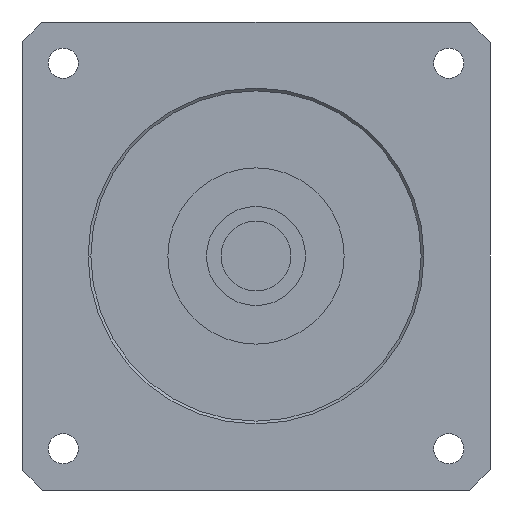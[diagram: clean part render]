
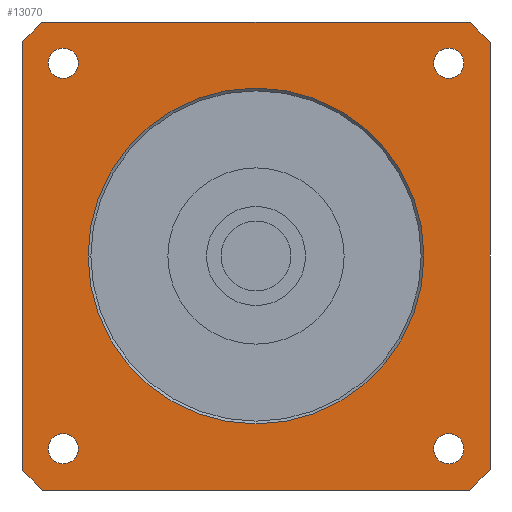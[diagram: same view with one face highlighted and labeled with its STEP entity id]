
A CAD part, left-side view. The second image highlights one B-rep face of the part: STEP entity #13070.
In plain terms, the highlighted planar face has unit normal (-1, 0, 0) as drawn and (0, 0, -1) by its records, which use the part's own axes.
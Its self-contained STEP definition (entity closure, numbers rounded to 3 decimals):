
#8640=CARTESIAN_POINT('',(32.252,35.002,-36.));
#8650=VERTEX_POINT('',#8640);
#8830=CARTESIAN_POINT('',(37.752,35.002,-36.));
#8840=VERTEX_POINT('',#8830);
#8870=CARTESIAN_POINT('',(35.002,35.002,-36.));
#8880=DIRECTION('',(0.,0.,-1.));
#8890=DIRECTION('',(1.,0.,0.));
#8900=AXIS2_PLACEMENT_3D('',#8870,#8880,#8890);
#8910=CIRCLE('',#8900,2.75);
#8920=EDGE_CURVE('',#8650,#8840,#8910,.T.);
#9060=CARTESIAN_POINT('',(-37.752,35.002,-36.));
#9070=VERTEX_POINT('',#9060);
#9250=CARTESIAN_POINT('',(-32.252,35.002,-36.));
#9260=VERTEX_POINT('',#9250);
#9290=CARTESIAN_POINT('',(-35.002,35.002,-36.));
#9300=DIRECTION('',(0.,0.,-1.));
#9310=DIRECTION('',(1.,0.,0.));
#9320=AXIS2_PLACEMENT_3D('',#9290,#9300,#9310);
#9330=CIRCLE('',#9320,2.75);
#9340=EDGE_CURVE('',#9070,#9260,#9330,.T.);
#11640=CARTESIAN_POINT('',(30.5,0.,-36.));
#11650=VERTEX_POINT('',#11640);
#11680=CARTESIAN_POINT('',(0.,0.,
-36.));
#11690=DIRECTION('',(0.,0.,1.));
#11700=DIRECTION('',(-1.,0.,0.));
#11710=AXIS2_PLACEMENT_3D('',#11680,#11690,#11700);
#11720=CIRCLE('',#11710,30.5);
#11730=CARTESIAN_POINT('',(-30.5,0.,-36.));
#11740=VERTEX_POINT('',#11730);
#11750=EDGE_CURVE('',#11650,#11740,#11720,.T.);
#11870=CARTESIAN_POINT('',(42.5,42.5,-36.));
#11880=DIRECTION('',(0.,0.,1.));
#11890=DIRECTION('',(-1.,0.,0.));
#11900=AXIS2_PLACEMENT_3D('',#11870,#11880,#11890);
#11910=PLANE('',#11900);
#11920=EDGE_CURVE('',#11740,#11650,#11720,.T.);
#11930=ORIENTED_EDGE('',*,*,#11920,.T.);
#11940=ORIENTED_EDGE('',*,*,#11750,.T.);
#11950=EDGE_LOOP('',(#11940,#11930));
#11960=FACE_BOUND('',#11950,.T.);
#11970=CARTESIAN_POINT('',(-35.002,-35.002,-36.));
#11980=DIRECTION('',(0.,0.,-1.));
#11990=DIRECTION('',(1.,0.,0.));
#12000=AXIS2_PLACEMENT_3D('',#11970,#11980,#11990);
#12010=CIRCLE('',#12000,2.75);
#12020=CARTESIAN_POINT('',(-32.252,-35.002,-36.));
#12030=VERTEX_POINT('',#12020);
#12040=CARTESIAN_POINT('',(-37.752,-35.002,-36.));
#12050=VERTEX_POINT('',#12040);
#12060=EDGE_CURVE('',#12030,#12050,#12010,.T.);
#12070=ORIENTED_EDGE('',*,*,#12060,.F.);
#12080=EDGE_CURVE('',#12050,#12030,#12010,.T.);
#12090=ORIENTED_EDGE('',*,*,#12080,.F.);
#12100=EDGE_LOOP('',(#12090,#12070));
#12110=FACE_BOUND('',#12100,.T.);
#12120=CARTESIAN_POINT('',(35.002,-35.002,-36.));
#12130=DIRECTION('',(0.,0.,-1.));
#12140=DIRECTION('',(1.,0.,0.));
#12150=AXIS2_PLACEMENT_3D('',#12120,#12130,#12140);
#12160=CIRCLE('',#12150,2.75);
#12170=CARTESIAN_POINT('',(37.752,-35.002,-36.));
#12180=VERTEX_POINT('',#12170);
#12190=CARTESIAN_POINT('',(32.252,-35.002,-36.));
#12200=VERTEX_POINT('',#12190);
#12210=EDGE_CURVE('',#12180,#12200,#12160,.T.);
#12220=ORIENTED_EDGE('',*,*,#12210,.F.);
#12230=EDGE_CURVE('',#12200,#12180,#12160,.T.);
#12240=ORIENTED_EDGE('',*,*,#12230,.F.);
#12250=EDGE_LOOP('',(#12240,#12220));
#12260=FACE_BOUND('',#12250,.T.);
#12270=EDGE_CURVE('',#8840,#8650,#8910,.T.);
#12280=ORIENTED_EDGE('',*,*,#12270,.F.);
#12290=ORIENTED_EDGE('',*,*,#8920,.F.);
#12300=EDGE_LOOP('',(#12290,#12280));
#12310=FACE_BOUND('',#12300,.T.);
#12320=EDGE_CURVE('',#9260,#9070,#9330,.T.);
#12330=ORIENTED_EDGE('',*,*,#12320,.F.);
#12340=ORIENTED_EDGE('',*,*,#9340,.F.);
#12350=EDGE_LOOP('',(#12340,#12330));
#12360=FACE_BOUND('',#12350,.T.);
#12370=CARTESIAN_POINT('',(0.,0.,
-36.));
#12380=DIRECTION('',(0.,0.,1.));
#12390=DIRECTION('',(1.,0.,0.));
#12400=AXIS2_PLACEMENT_3D('',#12370,#12380,#12390);
#12410=CIRCLE('',#12400,57.5);
#12420=CARTESIAN_POINT('',(-42.5,-38.73,-36.));
#12430=VERTEX_POINT('',#12420);
#12440=CARTESIAN_POINT('',(-38.73,-42.5,-36.));
#12450=VERTEX_POINT('',#12440);
#12460=EDGE_CURVE('',#12430,#12450,#12410,.T.);
#12470=ORIENTED_EDGE('',*,*,#12460,.F.);
#12480=CARTESIAN_POINT('',(-42.5,-42.5,-36.));
#12490=DIRECTION('',(1.,0.,0.));
#12500=VECTOR('',#12490,1000.);
#12510=LINE('',#12480,#12500);
#12520=CARTESIAN_POINT('',(38.73,-42.5,-36.));
#12530=VERTEX_POINT('',#12520);
#12540=EDGE_CURVE('',#12450,#12530,#12510,.T.);
#12550=ORIENTED_EDGE('',*,*,#12540,.F.);
#12560=CARTESIAN_POINT('',(0.,0.,
-36.));
#12570=DIRECTION('',(0.,0.,1.));
#12580=DIRECTION('',(1.,0.,0.));
#12590=AXIS2_PLACEMENT_3D('',#12560,#12570,#12580);
#12600=CIRCLE('',#12590,57.5);
#12610=CARTESIAN_POINT('',(42.5,-38.73,-36.));
#12620=VERTEX_POINT('',#12610);
#12630=EDGE_CURVE('',#12530,#12620,#12600,.T.);
#12640=ORIENTED_EDGE('',*,*,#12630,.F.);
#12650=CARTESIAN_POINT('',(42.5,-42.5,-36.));
#12660=DIRECTION('',(0.,1.,0.));
#12670=VECTOR('',#12660,1000.);
#12680=LINE('',#12650,#12670);
#12690=CARTESIAN_POINT('',(42.5,38.73,-36.));
#12700=VERTEX_POINT('',#12690);
#12710=EDGE_CURVE('',#12620,#12700,#12680,.T.);
#12720=ORIENTED_EDGE('',*,*,#12710,.F.);
#12730=CARTESIAN_POINT('',(0.,0.,
-36.));
#12740=DIRECTION('',(0.,0.,1.));
#12750=DIRECTION('',(1.,0.,0.));
#12760=AXIS2_PLACEMENT_3D('',#12730,#12740,#12750);
#12770=CIRCLE('',#12760,57.5);
#12780=CARTESIAN_POINT('',(38.73,42.5,-36.));
#12790=VERTEX_POINT('',#12780);
#12800=EDGE_CURVE('',#12700,#12790,#12770,.T.);
#12810=ORIENTED_EDGE('',*,*,#12800,.F.);
#12820=CARTESIAN_POINT('',(42.5,42.5,-36.));
#12830=DIRECTION('',(-1.,0.,0.));
#12840=VECTOR('',#12830,1000.);
#12850=LINE('',#12820,#12840);
#12860=CARTESIAN_POINT('',(-38.73,42.5,-36.));
#12870=VERTEX_POINT('',#12860);
#12880=EDGE_CURVE('',#12790,#12870,#12850,.T.);
#12890=ORIENTED_EDGE('',*,*,#12880,.F.);
#12900=CARTESIAN_POINT('',(0.,0.,
-36.));
#12910=DIRECTION('',(0.,0.,1.));
#12920=DIRECTION('',(1.,0.,0.));
#12930=AXIS2_PLACEMENT_3D('',#12900,#12910,#12920);
#12940=CIRCLE('',#12930,57.5);
#12950=CARTESIAN_POINT('',(-42.5,38.73,-36.));
#12960=VERTEX_POINT('',#12950);
#12970=EDGE_CURVE('',#12870,#12960,#12940,.T.);
#12980=ORIENTED_EDGE('',*,*,#12970,.F.);
#12990=CARTESIAN_POINT('',(-42.5,42.5,-36.));
#13000=DIRECTION('',(0.,-1.,0.));
#13010=VECTOR('',#13000,1000.);
#13020=LINE('',#12990,#13010);
#13030=EDGE_CURVE('',#12960,#12430,#13020,.T.);
#13040=ORIENTED_EDGE('',*,*,#13030,.F.);
#13050=EDGE_LOOP('',(#13040,#12980,#12890,#12810,#12720,#12640,#12550,
#12470));
#13060=FACE_OUTER_BOUND('',#13050,.T.);
#13070=ADVANCED_FACE('',(#11960,#12110,#12260,#12310,#12360,#13060),
#11910,.F.);
